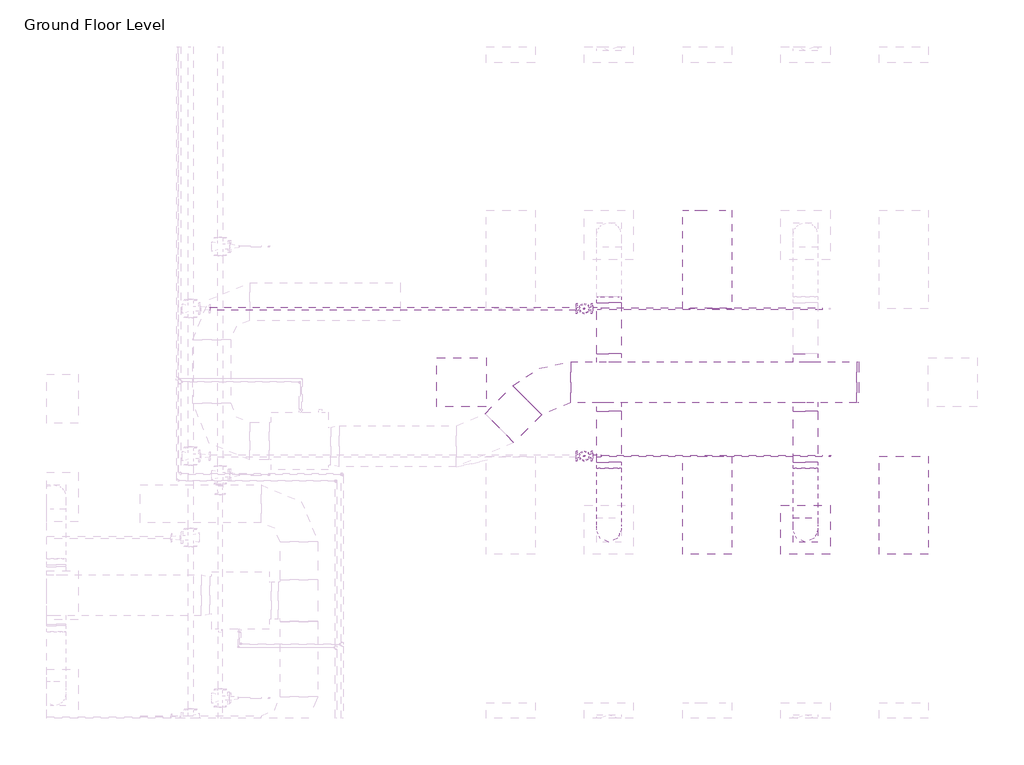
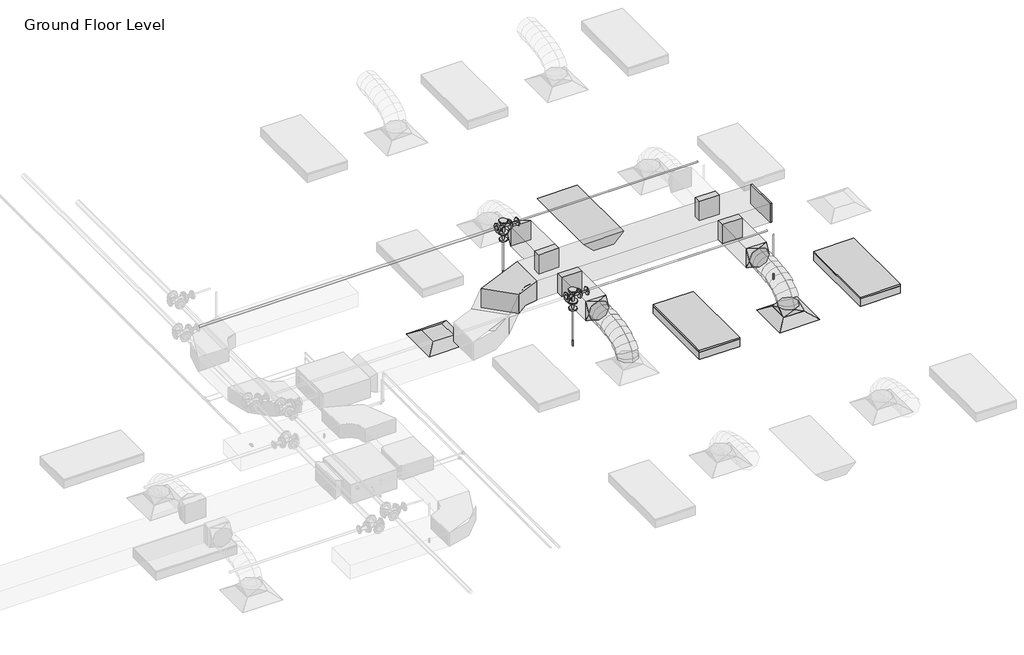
# One storey, part 64 of 74: 10 duct fittings, 7 duct segments, 6 pipe fittings, 6 pipe segments, 3 fire suppression terminals, 3 light fixtures, 2 air terminals.
"""IFC4 building model written with IfcOpenShell, lengths in millimetres."""

from ifc_helpers import new_model, si_unit, point, frame, frame_2d, origin, place, context, project, spatial, polyline, circle_curve, ellipse_curve, trimmed, segment, composite_curve, outline, extrude, transform, mapped, element, save
from ifc_brep_helpers import plane_surface, cylinder_surface, advanced_brep
from components import m_return_diffuser_600_x_600_face_300_x_300_connection_ff221211, m_rectangular_elbow_radius_1_5_w_acc56c25, m_rectangular_endcap_standard_72d4d00d, m_rectangular_takeoff_standard_cb0ccb98, m_rectangular_takeoff_standard_2be5eba1, m_rectangular_to_round_transition_angle_45_degree_641efff0, m_sprinkler_dry_pendent_hosted_15_mm_dry_pendent_9bda8e11, m_emergency_recessed_lighting_fixture_600x1200_277_5b10b25d, m_troffer_light_parabolic_rectangular1_0600x1200mm_4_lamp_86473d4a, m_reducer_flanged_cs_class_150_standard_ccf252ad, m_tee_round_base_flanged_cs_class_150_standard_7e5987a1

model = new_model("IFC4")

# Units and contexts
model_context = context("Model", 3, world=origin())
ifc_project = project(units=[si_unit("LENGTHUNIT", "METRE", prefix="MILLI")], contexts=[model_context])

# Site, building, storey
site = spatial("IfcSite", under=ifc_project)
building = spatial("IfcBuilding", under=site)
storey = spatial("IfcBuildingStorey", under=building, Name="Ground Floor Level", Elevation=900.0)

# Air terminals
placement = place(None, origin())
m_return_diffuser_600_x_600_face_300_x_300_connection_shape = m_return_diffuser_600_x_600_face_300_x_300_connection_ff221211(model_context)
element("IfcAirTerminal", 1, ObjectType="M_Return Diffuser : 600 x 600 Face 300 x 300 Connection", at=placement, inside=storey, context=model_context, shape_type="MappedRepresentation", body=[
    mapped(m_return_diffuser_600_x_600_face_300_x_300_connection_shape, transform((8942.7672395, 6735.2153534, 3650.0), x_axis=(1.0, 0.0, 0.0), y_axis=(0.0, 1.0, 0.0), z_axis=(0.0, 0.0, 1.0))),
])
element("IfcAirTerminal", 2, ObjectType="M_Supply Diffuser : 600 x 600 Face 300 x 300 Connection", at=placement, inside=storey, context=model_context, shape_type="MappedRepresentation", body=[
    mapped(m_return_diffuser_600_x_600_face_300_x_300_connection_shape, transform((13142.7672395, 4935.2153534, 3650.0), x_axis=(1.0, 0.0, 0.0), y_axis=(0.0, 1.0, 0.0), z_axis=(0.0, 0.0, 1.0))),
])

# Duct fittings
m_rectangular_elbow_radius_1_5_w_shape = m_rectangular_elbow_radius_1_5_w_acc56c25(model_context)
element("IfcDuctFitting", 3, ObjectType="M_Rectangular Elbow - Radius : 1.5 W", at=placement, inside=storey, context=model_context, shape_type="MappedRepresentation", body=[
    mapped(m_rectangular_elbow_radius_1_5_w_shape, transform((9966.7301365, 6735.2153534, 4100.0), x_axis=(-1.0, 0.0, 0.0), y_axis=(0.0, -0.9999999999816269, 6.061864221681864e-06), z_axis=(0.0, 6.061864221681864e-06, 0.9999999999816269))),
])
m_rectangular_endcap_standard_shape = m_rectangular_endcap_standard_72d4d00d(model_context)
element("IfcDuctFitting", 4, ObjectType="M_Rectangular Endcap : Standard", at=placement, inside=storey, context=model_context, shape_type="MappedRepresentation", body=[
    mapped(m_rectangular_endcap_standard_shape, transform((13766.7301365, 6735.2153534, 4100.0), x_axis=(1.0, 0.0, 0.0), y_axis=(0.0, 1.0, 0.0), z_axis=(0.0, 0.0, 1.0))),
])
m_rectangular_takeoff_standard_shape = m_rectangular_takeoff_standard_cb0ccb98(model_context)
element("IfcDuctFitting", 5, ObjectType="M_Rectangular Takeoff : Standard", at=placement, inside=storey, context=model_context, shape_type="MappedRepresentation", body=[
    mapped(m_rectangular_takeoff_standard_shape, transform((10742.7672395, 6985.2153534, 4100.0), x_axis=(0.0, 1.0, 0.0), y_axis=(1.0, 0.0, 0.0), z_axis=(0.0, 0.0, -1.0))),
])
element("IfcDuctFitting", 6, ObjectType="M_Rectangular Takeoff : Standard", at=placement, inside=storey, context=model_context, shape_type="MappedRepresentation", body=[
    mapped(m_rectangular_takeoff_standard_shape, transform((13142.7672395, 6985.2153534, 4100.0), x_axis=(0.0, 1.0, 0.0), y_axis=(1.0, 0.0, 0.0), z_axis=(0.0, 0.0, -1.0))),
])
m_rectangular_takeoff_standard_2_shape = m_rectangular_takeoff_standard_2be5eba1(model_context)
element("IfcDuctFitting", 7, ObjectType="M_Rectangular Takeoff : Standard", at=placement, inside=storey, context=model_context, shape_type="MappedRepresentation", body=[
    mapped(m_rectangular_takeoff_standard_2_shape, transform((10742.7672395, 6485.2153534, 4100.0), x_axis=(0.0, -1.0, 0.0), y_axis=(-1.0, 0.0, 0.0), z_axis=(0.0, 0.0, -1.0))),
])
element("IfcDuctFitting", 8, ObjectType="M_Rectangular Takeoff : Standard", at=placement, inside=storey, context=model_context, shape_type="MappedRepresentation", body=[
    mapped(m_rectangular_takeoff_standard_2_shape, transform((13142.7672395, 6485.2153534, 4100.0), x_axis=(0.0, -1.0, 0.0), y_axis=(-1.0, 0.0, 0.0), z_axis=(0.0, 0.0, -1.0))),
])
m_rectangular_to_round_transition_angle_45_degree_shape = m_rectangular_to_round_transition_angle_45_degree_641efff0(model_context)
element("IfcDuctFitting", 9, ObjectType="M_Rectangular to Round Transition - Angle : 45 Degree", at=placement, inside=storey, context=model_context, shape_type="MappedRepresentation", body=[
    mapped(m_rectangular_to_round_transition_angle_45_degree_shape, transform((10742.7672395, 5762.5512847, 4100.0), x_axis=(0.0, -1.0, 0.0), y_axis=(1.0, 0.0, 0.0), z_axis=(0.0, 0.0, 1.0))),
])
element("IfcDuctFitting", 10, ObjectType="M_Rectangular to Round Transition - Angle : 45 Degree", at=placement, inside=storey, context=model_context, shape_type="MappedRepresentation", body=[
    mapped(m_rectangular_to_round_transition_angle_45_degree_shape, transform((13142.7672395, 4935.2153534, 3751.6), x_axis=(0.0, 0.0, 1.0), y_axis=(-1.0, 0.0, 0.0), z_axis=(0.0, -1.0, 0.0))),
])
element("IfcDuctFitting", 11, ObjectType="M_Rectangular to Round Transition - Angle : 45 Degree", at=placement, inside=storey, context=model_context, shape_type="MappedRepresentation", body=[
    mapped(m_rectangular_to_round_transition_angle_45_degree_shape, transform((13142.7672395, 5762.5512847, 4100.0), x_axis=(0.0, -1.0, 0.0), y_axis=(1.0, 0.0, 0.0), z_axis=(0.0, 0.0, 1.0))),
])
element("IfcDuctFitting", 12, ObjectType="M_Rectangular to Round Transition - Angle : 45 Degree", at=placement, inside=storey, context=model_context, shape_type="MappedRepresentation", body=[
    mapped(m_rectangular_to_round_transition_angle_45_degree_shape, transform((10742.7672395, 7707.8794221, 4100.0), x_axis=(0.0, 1.0, 0.0), y_axis=(-1.0, 0.0, 0.0), z_axis=(0.0, 0.0, 1.0))),
])

# Duct segments
element("IfcDuctSegment", 13, ObjectType="Flex - Round", at=placement, inside=storey, context=model_context, shape_type="AdvancedBrep", body=[
    advanced_brep(
    [(10892.7672395, 4935.2153534, 3826.6), (10742.7672395, 4785.2153534, 3826.6), (10592.7672395, 4935.2153534, 3826.6), (10742.7672395, 5085.2153534, 3826.6), (10892.7672395, 4935.2153534, 3857.9377114), (10742.7672395, 4785.2153534, 3883.5809337), (10592.7672395, 4935.2153534, 3857.9377114), (10742.7672395, 5085.2153534, 3832.2944892), (10892.7672395, 4952.2312859, 3906.2505728), (10742.7672395, 4818.493307, 3978.0660967), (10592.7672395, 4952.2312859, 3906.2505728), (10742.7672395, 5085.9692649, 3834.435049), (10892.7672395, 4999.4151663, 3968.7113131), (10742.7672395, 4895.209267, 4079.6206026), (10592.7672395, 4999.4151663, 3968.7113131), (10742.7672395, 5103.6210655, 3857.8020236), (10892.7672395, 5070.9711184, 4016.0700639), (10742.7672395, 5002.0370628, 4150.3237489), (10592.7672395, 5070.9711184, 4016.0700639), (10742.7672395, 5139.9051741, 3881.8163788), (10892.7672395, 5161.1032664, 4050.4146682), (10742.7672395, 5117.5425033, 4194.3367758), (10592.7672395, 5161.1032664, 4050.4146682), (10742.7672395, 5204.6640296, 3906.4925606), (10892.7672395, 5264.0157343, 4073.8329691), (10742.7672395, 5237.4548103, 4221.6234841), (10592.7672395, 5264.0157343, 4073.8329691), (10742.7672395, 5290.5766583, 3926.0424542), (10892.7672395, 5373.912646, 4088.4128097), (10742.7672395, 5358.7617437, 4237.7170733), (10592.7672395, 5373.912646, 4088.4128097), (10742.7672395, 5389.0635483, 3939.1085462), (10892.7672395, 5484.9981256, 4096.242033), (10742.7672395, 5477.4927974, 4246.085151), (10592.7672395, 5484.9981256, 4096.242033), (10742.7672395, 5492.5034538, 3946.398915), (10892.7672395, 5591.4762972, 4099.4084821), (10742.7672395, 5588.7848041, 4249.394754), (10592.7672395, 5591.4762972, 4099.4084821), (10742.7672395, 5594.1677903, 3949.4222102), (10892.7672395, 5687.5512847, 4100.0), (10742.7672395, 5688.4747925, 3950.0028429), (10592.7672395, 5687.5512847, 4100.0), (10742.7672395, 5686.6277768, 4249.9971571)],
    [
        (0, 1, circle_curve(frame((10742.7672395, 4935.2153534, 3826.6), z_axis=(0.0, 0.0, -1.0), x_axis=(1.0, 0.0, 0.0)), 150.0)),
        (1, 2, circle_curve(frame((10742.7672395, 4935.2153534, 3826.6), z_axis=(0.0, 0.0, -1.0), x_axis=(1.0, 0.0, 0.0)), 150.0)),
        (2, 3, circle_curve(frame((10742.7672395, 4935.2153534, 3826.6), z_axis=(0.0, 0.0, -1.0), x_axis=(1.0, 0.0, 0.0)), 150.0)),
        (3, 0, circle_curve(frame((10742.7672395, 4935.2153534, 3826.6), z_axis=(0.0, 0.0, -1.0), x_axis=(1.0, 0.0, 0.0)), 150.0)),
        (0, 4),
        (4, 5, ellipse_curve(frame((10742.7672395, 4935.2153534, 3857.9377114), z_axis=(0.0, -0.16851014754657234, -0.9856999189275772), x_axis=(0.0, 0.9856999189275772, -0.1685101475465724)), 152.176131, 150.0)),
        (5, 1),
        (5, 6, ellipse_curve(frame((10742.7672395, 4935.2153534, 3857.9377114), z_axis=(0.0, -0.16851014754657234, -0.9856999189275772), x_axis=(0.0, 0.9856999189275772, -0.1685101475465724)), 152.176131, 150.0)),
        (6, 2),
        (6, 7, ellipse_curve(frame((10742.7672395, 4935.2153534, 3857.9377114), z_axis=(0.0, -0.16851014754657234, -0.9856999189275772), x_axis=(0.0, 0.9856999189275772, -0.1685101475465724)), 152.176131, 150.0)),
        (7, 3),
        (7, 4, ellipse_curve(frame((10742.7672395, 4935.2153534, 3857.9377114), z_axis=(0.0, -0.16851014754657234, -0.9856999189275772), x_axis=(0.0, 0.9856999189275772, -0.1685101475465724)), 152.176131, 150.0)),
        (4, 8),
        (8, 9, ellipse_curve(frame((10742.7672395, 4952.2312859, 3906.2505728), z_axis=(0.0, -0.4730922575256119, -0.8810128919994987), x_axis=(0.0, 0.8810128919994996, -0.47309225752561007)), 151.8002519, 150.0)),
        (9, 5),
        (9, 10, ellipse_curve(frame((10742.7672395, 4952.2312859, 3906.2505728), z_axis=(0.0, -0.4730922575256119, -0.8810128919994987), x_axis=(0.0, 0.8810128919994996, -0.47309225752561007)), 151.8002519, 150.0)),
        (10, 6),
        (10, 11, ellipse_curve(frame((10742.7672395, 4952.2312859, 3906.2505728), z_axis=(0.0, -0.4730922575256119, -0.8810128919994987), x_axis=(0.0, 0.8810128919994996, -0.47309225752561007)), 151.8002519, 150.0)),
        (11, 7),
        (11, 8, ellipse_curve(frame((10742.7672395, 4952.2312859, 3906.2505728), z_axis=(0.0, -0.4730922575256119, -0.8810128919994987), x_axis=(0.0, 0.8810128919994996, -0.47309225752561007)), 151.8002519, 150.0)),
        (8, 12),
        (12, 13, ellipse_curve(frame((10742.7672395, 4999.4151663, 3968.7113131), z_axis=(0.0, -0.7287877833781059, -0.6847396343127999), x_axis=(0.0, 0.6847396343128, -0.7287877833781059)), 152.1832446, 150.0)),
        (13, 9),
        (13, 14, ellipse_curve(frame((10742.7672395, 4999.4151663, 3968.7113131), z_axis=(0.0, -0.7287877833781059, -0.6847396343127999), x_axis=(0.0, 0.6847396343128, -0.7287877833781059)), 152.1832446, 150.0)),
        (14, 10),
        (14, 15, ellipse_curve(frame((10742.7672395, 4999.4151663, 3968.7113131), z_axis=(0.0, -0.7287877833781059, -0.6847396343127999), x_axis=(0.0, 0.6847396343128, -0.7287877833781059)), 152.1832446, 150.0)),
        (15, 11),
        (15, 12, ellipse_curve(frame((10742.7672395, 4999.4151663, 3968.7113131), z_axis=(0.0, -0.7287877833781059, -0.6847396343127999), x_axis=(0.0, 0.6847396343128, -0.7287877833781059)), 152.1832446, 150.0)),
        (12, 16),
        (16, 17, ellipse_curve(frame((10742.7672395, 5070.9711184, 4016.0700639), z_axis=(0.0, -0.8895859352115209, -0.4567678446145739), x_axis=(0.0, 0.4567678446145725, -0.8895859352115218)), 150.91705, 150.0)),
        (17, 13),
        (17, 18, ellipse_curve(frame((10742.7672395, 5070.9711184, 4016.0700639), z_axis=(0.0, -0.8895859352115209, -0.4567678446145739), x_axis=(0.0, 0.4567678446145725, -0.8895859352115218)), 150.91705, 150.0)),
        (18, 14),
        (18, 19, ellipse_curve(frame((10742.7672395, 5070.9711184, 4016.0700639), z_axis=(0.0, -0.8895859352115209, -0.4567678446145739), x_axis=(0.0, 0.4567678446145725, -0.8895859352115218)), 150.91705, 150.0)),
        (19, 15),
        (19, 16, ellipse_curve(frame((10742.7672395, 5070.9711184, 4016.0700639), z_axis=(0.0, -0.8895859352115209, -0.4567678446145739), x_axis=(0.0, 0.4567678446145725, -0.8895859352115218)), 150.91705, 150.0)),
        (16, 20),
        (20, 21, ellipse_curve(frame((10742.7672395, 5161.1032664, 4050.4146682), z_axis=(0.0, -0.9571203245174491, -0.28969067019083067), x_axis=(0.0, 0.28969067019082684, -0.9571203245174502)), 150.369921, 150.0)),
        (21, 17),
        (21, 22, ellipse_curve(frame((10742.7672395, 5161.1032664, 4050.4146682), z_axis=(0.0, -0.9571203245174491, -0.28969067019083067), x_axis=(0.0, 0.28969067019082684, -0.9571203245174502)), 150.369921, 150.0)),
        (22, 18),
        (22, 23, ellipse_curve(frame((10742.7672395, 5161.1032664, 4050.4146682), z_axis=(0.0, -0.9571203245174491, -0.28969067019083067), x_axis=(0.0, 0.28969067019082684, -0.9571203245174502)), 150.369921, 150.0)),
        (23, 19),
        (23, 20, ellipse_curve(frame((10742.7672395, 5161.1032664, 4050.4146682), z_axis=(0.0, -0.9571203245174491, -0.28969067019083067), x_axis=(0.0, 0.28969067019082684, -0.9571203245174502)), 150.369921, 150.0)),
        (20, 24),
        (24, 25, ellipse_curve(frame((10742.7672395, 5264.0157343, 4073.8329691), z_axis=(0.0, -0.9842313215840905, -0.17688613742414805), x_axis=(0.0, 0.17688613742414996, -0.9842313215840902)), 150.1583131, 150.0)),
        (25, 21),
        (25, 26, ellipse_curve(frame((10742.7672395, 5264.0157343, 4073.8329691), z_axis=(0.0, -0.9842313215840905, -0.17688613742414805), x_axis=(0.0, 0.17688613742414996, -0.9842313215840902)), 150.1583131, 150.0)),
        (26, 22),
        (26, 27, ellipse_curve(frame((10742.7672395, 5264.0157343, 4073.8329691), z_axis=(0.0, -0.9842313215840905, -0.17688613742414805), x_axis=(0.0, 0.17688613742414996, -0.9842313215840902)), 150.1583131, 150.0)),
        (27, 23),
        (27, 24, ellipse_curve(frame((10742.7672395, 5264.0157343, 4073.8329691), z_axis=(0.0, -0.9842313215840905, -0.17688613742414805), x_axis=(0.0, 0.17688613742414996, -0.9842313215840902)), 150.1583131, 150.0)),
        (24, 28),
        (28, 29, ellipse_curve(frame((10742.7672395, 5373.912646, 4088.4128097), z_axis=(0.0, -0.9948906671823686, -0.10095821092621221), x_axis=(0.0, 0.10095821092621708, -0.9948906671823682)), 150.0710264, 150.0)),
        (29, 25),
        (29, 30, ellipse_curve(frame((10742.7672395, 5373.912646, 4088.4128097), z_axis=(0.0, -0.9948906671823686, -0.10095821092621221), x_axis=(0.0, 0.10095821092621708, -0.9948906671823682)), 150.0710264, 150.0)),
        (30, 26),
        (30, 31, ellipse_curve(frame((10742.7672395, 5373.912646, 4088.4128097), z_axis=(0.0, -0.9948906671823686, -0.10095821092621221), x_axis=(0.0, 0.10095821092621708, -0.9948906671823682)), 150.0710264, 150.0)),
        (31, 27),
        (31, 28, ellipse_curve(frame((10742.7672395, 5373.912646, 4088.4128097), z_axis=(0.0, -0.9948906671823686, -0.10095821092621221), x_axis=(0.0, 0.10095821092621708, -0.9948906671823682)), 150.0710264, 150.0)),
        (28, 32),
        (32, 33, ellipse_curve(frame((10742.7672395, 5484.9981256, 4096.242033), z_axis=(0.0, -0.9987479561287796, -0.05002519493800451), x_axis=(0.0, 0.050025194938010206, -0.9987479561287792)), 150.0309634, 150.0)),
        (33, 29),
        (33, 34, ellipse_curve(frame((10742.7672395, 5484.9981256, 4096.242033), z_axis=(0.0, -0.9987479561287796, -0.05002519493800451), x_axis=(0.0, 0.050025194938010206, -0.9987479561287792)), 150.0309634, 150.0)),
        (34, 30),
        (34, 35, ellipse_curve(frame((10742.7672395, 5484.9981256, 4096.242033), z_axis=(0.0, -0.9987479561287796, -0.05002519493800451), x_axis=(0.0, 0.050025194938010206, -0.9987479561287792)), 150.0309634, 150.0)),
        (35, 31),
        (35, 32, ellipse_curve(frame((10742.7672395, 5484.9981256, 4096.242033), z_axis=(0.0, -0.9987479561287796, -0.05002519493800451), x_axis=(0.0, 0.050025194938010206, -0.9987479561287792)), 150.0309634, 150.0)),
        (32, 36),
        (36, 37, ellipse_curve(frame((10742.7672395, 5591.4762972, 4099.4084821), z_axis=(0.0, -0.9998390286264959, -0.017942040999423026), x_axis=(0.0, 0.01794204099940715, -0.9998390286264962)), 150.0104193, 150.0)),
        (37, 33),
        (37, 38, ellipse_curve(frame((10742.7672395, 5591.4762972, 4099.4084821), z_axis=(0.0, -0.9998390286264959, -0.017942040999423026), x_axis=(0.0, 0.01794204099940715, -0.9998390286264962)), 150.0104193, 150.0)),
        (38, 34),
        (38, 39, ellipse_curve(frame((10742.7672395, 5591.4762972, 4099.4084821), z_axis=(0.0, -0.9998390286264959, -0.017942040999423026), x_axis=(0.0, 0.01794204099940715, -0.9998390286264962)), 150.0104193, 150.0)),
        (39, 35),
        (39, 36, ellipse_curve(frame((10742.7672395, 5591.4762972, 4099.4084821), z_axis=(0.0, -0.9998390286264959, -0.017942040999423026), x_axis=(0.0, 0.01794204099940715, -0.9998390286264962)), 150.0104193, 150.0)),
        (40, 41, circle_curve(frame((10742.7672395, 5687.5512847, 4100.0), z_axis=(0.0, 0.9999810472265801, 0.006156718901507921), x_axis=(1.0, 0.0, 0.0)), 150.0)),
        (41, 42, circle_curve(frame((10742.7672395, 5687.5512847, 4100.0), z_axis=(0.0, 0.9999810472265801, 0.006156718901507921), x_axis=(1.0, 0.0, 0.0)), 150.0)),
        (42, 43, circle_curve(frame((10742.7672395, 5687.5512847, 4100.0), z_axis=(0.0, 0.9999810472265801, 0.006156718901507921), x_axis=(1.0, 0.0, 0.0)), 150.0)),
        (43, 40, circle_curve(frame((10742.7672395, 5687.5512847, 4100.0), z_axis=(0.0, 0.9999810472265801, 0.006156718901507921), x_axis=(1.0, 0.0, 0.0)), 150.0)),
        (36, 40),
        (43, 37),
        (42, 38),
        (41, 39),
    ],
    [
        plane_surface(frame((10742.7672395, 4785.2153534, 3826.6), z_axis=(0.0, 0.0, -1.0), x_axis=(1.0, 0.0, 0.0))),
        cylinder_surface(frame((10742.7672395, 4935.2153534, 3826.6), z_axis=(0.0, 0.0, -1.0), x_axis=(1.0, 0.0, 0.0)), 150.0),
        cylinder_surface(frame((10742.7672395, 4935.2153534, 3857.9377114), z_axis=(0.0, -0.3322008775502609, -0.9432086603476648), x_axis=(1.0, 0.0, 0.0)), 150.0),
        cylinder_surface(frame((10742.7672395, 4952.2312859, 3906.2505728), z_axis=(0.0, -0.6027625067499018, -0.7979206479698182), x_axis=(1.0, 0.0, 0.0)), 150.0),
        cylinder_surface(frame((10742.7672395, 4999.4151663, 3968.7113131), z_axis=(0.0, -0.8339024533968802, -0.5519118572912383), x_axis=(1.0, 0.0, 0.0)), 150.0),
        cylinder_surface(frame((10742.7672395, 5070.9711184, 4016.0700639), z_axis=(0.0, -0.934458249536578, -0.35607271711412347), x_axis=(1.0, 0.0, 0.0)), 150.0),
        cylinder_surface(frame((10742.7672395, 5161.1032664, 4050.4146682), z_axis=(0.0, -0.9750732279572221, -0.22188330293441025), x_axis=(1.0, 0.0, 0.0)), 150.0),
        cylinder_surface(frame((10742.7672395, 5264.0157343, 4073.8329691), z_axis=(0.0, -0.9913140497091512, -0.1315159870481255), x_axis=(1.0, 0.0, 0.0)), 150.0),
        cylinder_surface(frame((10742.7672395, 5373.912646, 4088.4128097), z_axis=(0.0, -0.9975255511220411, -0.07030487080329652), x_axis=(1.0, 0.0, 0.0)), 150.0),
        cylinder_surface(frame((10742.7672395, 5484.9981256, 4096.242033), z_axis=(0.0, -0.9995581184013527, -0.02972487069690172), x_axis=(1.0, 0.0, 0.0)), 150.0),
        plane_surface(frame((10742.7672395, 5686.6277768, 4249.9971571), z_axis=(0.0, 0.9999810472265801, 0.0061567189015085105), x_axis=(1.0, 0.0, 0.0))),
        cylinder_surface(frame((10742.7672395, 5591.4762972, 4099.4084821), z_axis=(0.0, -0.9999810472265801, -0.006156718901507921), x_axis=(1.0, 0.0, 0.0)), 150.0),
    ],
    [
        (0, [[1, 2, 3, 4]]),
        (1, [[-1, 5, 6, 7]]),
        (1, [[-2, -7, 8, 9]]),
        (1, [[-3, -9, 10, 11]]),
        (1, [[-4, -11, 12, -5]]),
        (2, [[-6, 13, 14, 15]]),
        (2, [[-8, -15, 16, 17]]),
        (2, [[-10, -17, 18, 19]]),
        (2, [[-12, -19, 20, -13]]),
        (3, [[-14, 21, 22, 23]]),
        (3, [[-16, -23, 24, 25]]),
        (3, [[-18, -25, 26, 27]]),
        (3, [[-20, -27, 28, -21]]),
        (4, [[-22, 29, 30, 31]]),
        (4, [[-24, -31, 32, 33]]),
        (4, [[-26, -33, 34, 35]]),
        (4, [[-28, -35, 36, -29]]),
        (5, [[-30, 37, 38, 39]]),
        (5, [[-32, -39, 40, 41]]),
        (5, [[-34, -41, 42, 43]]),
        (5, [[-36, -43, 44, -37]]),
        (6, [[-38, 45, 46, 47]]),
        (6, [[-40, -47, 48, 49]]),
        (6, [[-42, -49, 50, 51]]),
        (6, [[-44, -51, 52, -45]]),
        (7, [[-46, 53, 54, 55]]),
        (7, [[-48, -55, 56, 57]]),
        (7, [[-50, -57, 58, 59]]),
        (7, [[-52, -59, 60, -53]]),
        (8, [[-54, 61, 62, 63]]),
        (8, [[-56, -63, 64, 65]]),
        (8, [[-58, -65, 66, 67]]),
        (8, [[-60, -67, 68, -61]]),
        (9, [[-62, 69, 70, 71]]),
        (9, [[-64, -71, 72, 73]]),
        (9, [[-66, -73, 74, 75]]),
        (9, [[-68, -75, 76, -69]]),
        (10, [[77, 78, 79, 80]]),
        (11, [[-70, 81, -80, 82]]),
        (11, [[-72, -82, -79, 83]]),
        (11, [[-74, -83, -78, 84]]),
        (11, [[-76, -84, -77, -81]]),
    ],
),
])
element("IfcDuctSegment", 14, ObjectType="Flex - Round", at=placement, inside=storey, context=model_context, shape_type="AdvancedBrep", body=[
    advanced_brep(
    [(13292.7672395, 4935.2153534, 3826.6), (13142.7672395, 4785.2153534, 3826.6), (12992.7672395, 4935.2153534, 3826.6), (13142.7672395, 5085.2153534, 3826.6), (13292.7672395, 4935.2153534, 3857.9377114), (13142.7672395, 4785.2153534, 3883.5809337), (12992.7672395, 4935.2153534, 3857.9377114), (13142.7672395, 5085.2153534, 3832.2944892), (13292.7672395, 4952.2312859, 3906.2505728), (13142.7672395, 4818.493307, 3978.0660967), (12992.7672395, 4952.2312859, 3906.2505728), (13142.7672395, 5085.9692649, 3834.435049), (13292.7672395, 4999.4151663, 3968.7113131), (13142.7672395, 4895.209267, 4079.6206026), (12992.7672395, 4999.4151663, 3968.7113131), (13142.7672395, 5103.6210655, 3857.8020236), (13292.7672395, 5070.9711184, 4016.0700639), (13142.7672395, 5002.0370628, 4150.3237489), (12992.7672395, 5070.9711184, 4016.0700639), (13142.7672395, 5139.9051741, 3881.8163788), (13292.7672395, 5161.1032664, 4050.4146682), (13142.7672395, 5117.5425033, 4194.3367758), (12992.7672395, 5161.1032664, 4050.4146682), (13142.7672395, 5204.6640296, 3906.4925606), (13292.7672395, 5264.0157343, 4073.8329691), (13142.7672395, 5237.4548103, 4221.6234841), (12992.7672395, 5264.0157343, 4073.8329691), (13142.7672395, 5290.5766583, 3926.0424542), (13292.7672395, 5373.912646, 4088.4128097), (13142.7672395, 5358.7617437, 4237.7170733), (12992.7672395, 5373.912646, 4088.4128097), (13142.7672395, 5389.0635483, 3939.1085462), (13292.7672395, 5484.9981256, 4096.242033), (13142.7672395, 5477.4927974, 4246.085151), (12992.7672395, 5484.9981256, 4096.242033), (13142.7672395, 5492.5034538, 3946.398915), (13292.7672395, 5591.4762972, 4099.4084821), (13142.7672395, 5588.7848041, 4249.394754), (12992.7672395, 5591.4762972, 4099.4084821), (13142.7672395, 5594.1677903, 3949.4222102), (13292.7672395, 5687.5512847, 4100.0), (13142.7672395, 5688.4747925, 3950.0028429), (12992.7672395, 5687.5512847, 4100.0), (13142.7672395, 5686.6277768, 4249.9971571)],
    [
        (0, 1, circle_curve(frame((13142.7672395, 4935.2153534, 3826.6), z_axis=(0.0, 0.0, -1.0), x_axis=(1.0, 0.0, 0.0)), 150.0)),
        (1, 2, circle_curve(frame((13142.7672395, 4935.2153534, 3826.6), z_axis=(0.0, 0.0, -1.0), x_axis=(1.0, 0.0, 0.0)), 150.0)),
        (2, 3, circle_curve(frame((13142.7672395, 4935.2153534, 3826.6), z_axis=(0.0, 0.0, -1.0), x_axis=(1.0, 0.0, 0.0)), 150.0)),
        (3, 0, circle_curve(frame((13142.7672395, 4935.2153534, 3826.6), z_axis=(0.0, 0.0, -1.0), x_axis=(1.0, 0.0, 0.0)), 150.0)),
        (0, 4),
        (4, 5, ellipse_curve(frame((13142.7672395, 4935.2153534, 3857.9377114), z_axis=(0.0, -0.16851014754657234, -0.9856999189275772), x_axis=(0.0, 0.9856999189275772, -0.1685101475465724)), 152.176131, 150.0)),
        (5, 1),
        (5, 6, ellipse_curve(frame((13142.7672395, 4935.2153534, 3857.9377114), z_axis=(0.0, -0.16851014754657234, -0.9856999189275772), x_axis=(0.0, 0.9856999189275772, -0.1685101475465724)), 152.176131, 150.0)),
        (6, 2),
        (6, 7, ellipse_curve(frame((13142.7672395, 4935.2153534, 3857.9377114), z_axis=(0.0, -0.16851014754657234, -0.9856999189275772), x_axis=(0.0, 0.9856999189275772, -0.1685101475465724)), 152.176131, 150.0)),
        (7, 3),
        (7, 4, ellipse_curve(frame((13142.7672395, 4935.2153534, 3857.9377114), z_axis=(0.0, -0.16851014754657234, -0.9856999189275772), x_axis=(0.0, 0.9856999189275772, -0.1685101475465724)), 152.176131, 150.0)),
        (4, 8),
        (8, 9, ellipse_curve(frame((13142.7672395, 4952.2312859, 3906.2505728), z_axis=(0.0, -0.4730922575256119, -0.8810128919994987), x_axis=(0.0, 0.8810128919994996, -0.47309225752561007)), 151.8002519, 150.0)),
        (9, 5),
        (9, 10, ellipse_curve(frame((13142.7672395, 4952.2312859, 3906.2505728), z_axis=(0.0, -0.4730922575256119, -0.8810128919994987), x_axis=(0.0, 0.8810128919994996, -0.47309225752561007)), 151.8002519, 150.0)),
        (10, 6),
        (10, 11, ellipse_curve(frame((13142.7672395, 4952.2312859, 3906.2505728), z_axis=(0.0, -0.4730922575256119, -0.8810128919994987), x_axis=(0.0, 0.8810128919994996, -0.47309225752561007)), 151.8002519, 150.0)),
        (11, 7),
        (11, 8, ellipse_curve(frame((13142.7672395, 4952.2312859, 3906.2505728), z_axis=(0.0, -0.4730922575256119, -0.8810128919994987), x_axis=(0.0, 0.8810128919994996, -0.47309225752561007)), 151.8002519, 150.0)),
        (8, 12),
        (12, 13, ellipse_curve(frame((13142.7672395, 4999.4151663, 3968.7113131), z_axis=(0.0, -0.7287877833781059, -0.6847396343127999), x_axis=(0.0, 0.6847396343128, -0.7287877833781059)), 152.1832446, 150.0)),
        (13, 9),
        (13, 14, ellipse_curve(frame((13142.7672395, 4999.4151663, 3968.7113131), z_axis=(0.0, -0.7287877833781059, -0.6847396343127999), x_axis=(0.0, 0.6847396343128, -0.7287877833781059)), 152.1832446, 150.0)),
        (14, 10),
        (14, 15, ellipse_curve(frame((13142.7672395, 4999.4151663, 3968.7113131), z_axis=(0.0, -0.7287877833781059, -0.6847396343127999), x_axis=(0.0, 0.6847396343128, -0.7287877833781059)), 152.1832446, 150.0)),
        (15, 11),
        (15, 12, ellipse_curve(frame((13142.7672395, 4999.4151663, 3968.7113131), z_axis=(0.0, -0.7287877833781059, -0.6847396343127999), x_axis=(0.0, 0.6847396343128, -0.7287877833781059)), 152.1832446, 150.0)),
        (12, 16),
        (16, 17, ellipse_curve(frame((13142.7672395, 5070.9711184, 4016.0700639), z_axis=(0.0, -0.8895859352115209, -0.4567678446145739), x_axis=(0.0, 0.4567678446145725, -0.8895859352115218)), 150.91705, 150.0)),
        (17, 13),
        (17, 18, ellipse_curve(frame((13142.7672395, 5070.9711184, 4016.0700639), z_axis=(0.0, -0.8895859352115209, -0.4567678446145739), x_axis=(0.0, 0.4567678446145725, -0.8895859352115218)), 150.91705, 150.0)),
        (18, 14),
        (18, 19, ellipse_curve(frame((13142.7672395, 5070.9711184, 4016.0700639), z_axis=(0.0, -0.8895859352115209, -0.4567678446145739), x_axis=(0.0, 0.4567678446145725, -0.8895859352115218)), 150.91705, 150.0)),
        (19, 15),
        (19, 16, ellipse_curve(frame((13142.7672395, 5070.9711184, 4016.0700639), z_axis=(0.0, -0.8895859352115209, -0.4567678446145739), x_axis=(0.0, 0.4567678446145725, -0.8895859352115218)), 150.91705, 150.0)),
        (16, 20),
        (20, 21, ellipse_curve(frame((13142.7672395, 5161.1032664, 4050.4146682), z_axis=(0.0, -0.9571203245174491, -0.28969067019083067), x_axis=(0.0, 0.28969067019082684, -0.9571203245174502)), 150.369921, 150.0)),
        (21, 17),
        (21, 22, ellipse_curve(frame((13142.7672395, 5161.1032664, 4050.4146682), z_axis=(0.0, -0.9571203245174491, -0.28969067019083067), x_axis=(0.0, 0.28969067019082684, -0.9571203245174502)), 150.369921, 150.0)),
        (22, 18),
        (22, 23, ellipse_curve(frame((13142.7672395, 5161.1032664, 4050.4146682), z_axis=(0.0, -0.9571203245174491, -0.28969067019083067), x_axis=(0.0, 0.28969067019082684, -0.9571203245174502)), 150.369921, 150.0)),
        (23, 19),
        (23, 20, ellipse_curve(frame((13142.7672395, 5161.1032664, 4050.4146682), z_axis=(0.0, -0.9571203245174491, -0.28969067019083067), x_axis=(0.0, 0.28969067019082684, -0.9571203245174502)), 150.369921, 150.0)),
        (20, 24),
        (24, 25, ellipse_curve(frame((13142.7672395, 5264.0157343, 4073.8329691), z_axis=(0.0, -0.9842313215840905, -0.17688613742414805), x_axis=(0.0, 0.17688613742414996, -0.9842313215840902)), 150.1583131, 150.0)),
        (25, 21),
        (25, 26, ellipse_curve(frame((13142.7672395, 5264.0157343, 4073.8329691), z_axis=(0.0, -0.9842313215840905, -0.17688613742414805), x_axis=(0.0, 0.17688613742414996, -0.9842313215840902)), 150.1583131, 150.0)),
        (26, 22),
        (26, 27, ellipse_curve(frame((13142.7672395, 5264.0157343, 4073.8329691), z_axis=(0.0, -0.9842313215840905, -0.17688613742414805), x_axis=(0.0, 0.17688613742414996, -0.9842313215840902)), 150.1583131, 150.0)),
        (27, 23),
        (27, 24, ellipse_curve(frame((13142.7672395, 5264.0157343, 4073.8329691), z_axis=(0.0, -0.9842313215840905, -0.17688613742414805), x_axis=(0.0, 0.17688613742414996, -0.9842313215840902)), 150.1583131, 150.0)),
        (24, 28),
        (28, 29, ellipse_curve(frame((13142.7672395, 5373.912646, 4088.4128097), z_axis=(0.0, -0.9948906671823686, -0.10095821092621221), x_axis=(0.0, 0.10095821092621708, -0.9948906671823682)), 150.0710264, 150.0)),
        (29, 25),
        (29, 30, ellipse_curve(frame((13142.7672395, 5373.912646, 4088.4128097), z_axis=(0.0, -0.9948906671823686, -0.10095821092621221), x_axis=(0.0, 0.10095821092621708, -0.9948906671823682)), 150.0710264, 150.0)),
        (30, 26),
        (30, 31, ellipse_curve(frame((13142.7672395, 5373.912646, 4088.4128097), z_axis=(0.0, -0.9948906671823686, -0.10095821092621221), x_axis=(0.0, 0.10095821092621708, -0.9948906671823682)), 150.0710264, 150.0)),
        (31, 27),
        (31, 28, ellipse_curve(frame((13142.7672395, 5373.912646, 4088.4128097), z_axis=(0.0, -0.9948906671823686, -0.10095821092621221), x_axis=(0.0, 0.10095821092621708, -0.9948906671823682)), 150.0710264, 150.0)),
        (28, 32),
        (32, 33, ellipse_curve(frame((13142.7672395, 5484.9981256, 4096.242033), z_axis=(0.0, -0.9987479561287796, -0.05002519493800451), x_axis=(0.0, 0.050025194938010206, -0.9987479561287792)), 150.0309634, 150.0)),
        (33, 29),
        (33, 34, ellipse_curve(frame((13142.7672395, 5484.9981256, 4096.242033), z_axis=(0.0, -0.9987479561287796, -0.05002519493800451), x_axis=(0.0, 0.050025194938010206, -0.9987479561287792)), 150.0309634, 150.0)),
        (34, 30),
        (34, 35, ellipse_curve(frame((13142.7672395, 5484.9981256, 4096.242033), z_axis=(0.0, -0.9987479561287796, -0.05002519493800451), x_axis=(0.0, 0.050025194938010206, -0.9987479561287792)), 150.0309634, 150.0)),
        (35, 31),
        (35, 32, ellipse_curve(frame((13142.7672395, 5484.9981256, 4096.242033), z_axis=(0.0, -0.9987479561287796, -0.05002519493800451), x_axis=(0.0, 0.050025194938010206, -0.9987479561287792)), 150.0309634, 150.0)),
        (32, 36),
        (36, 37, ellipse_curve(frame((13142.7672395, 5591.4762972, 4099.4084821), z_axis=(0.0, -0.9998390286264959, -0.017942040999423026), x_axis=(0.0, 0.01794204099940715, -0.9998390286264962)), 150.0104193, 150.0)),
        (37, 33),
        (37, 38, ellipse_curve(frame((13142.7672395, 5591.4762972, 4099.4084821), z_axis=(0.0, -0.9998390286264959, -0.017942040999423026), x_axis=(0.0, 0.01794204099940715, -0.9998390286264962)), 150.0104193, 150.0)),
        (38, 34),
        (38, 39, ellipse_curve(frame((13142.7672395, 5591.4762972, 4099.4084821), z_axis=(0.0, -0.9998390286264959, -0.017942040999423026), x_axis=(0.0, 0.01794204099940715, -0.9998390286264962)), 150.0104193, 150.0)),
        (39, 35),
        (39, 36, ellipse_curve(frame((13142.7672395, 5591.4762972, 4099.4084821), z_axis=(0.0, -0.9998390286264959, -0.017942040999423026), x_axis=(0.0, 0.01794204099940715, -0.9998390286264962)), 150.0104193, 150.0)),
        (40, 41, circle_curve(frame((13142.7672395, 5687.5512847, 4100.0), z_axis=(0.0, 0.9999810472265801, 0.006156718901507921), x_axis=(1.0, 0.0, 0.0)), 150.0)),
        (41, 42, circle_curve(frame((13142.7672395, 5687.5512847, 4100.0), z_axis=(0.0, 0.9999810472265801, 0.006156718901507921), x_axis=(1.0, 0.0, 0.0)), 150.0)),
        (42, 43, circle_curve(frame((13142.7672395, 5687.5512847, 4100.0), z_axis=(0.0, 0.9999810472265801, 0.006156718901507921), x_axis=(1.0, 0.0, 0.0)), 150.0)),
        (43, 40, circle_curve(frame((13142.7672395, 5687.5512847, 4100.0), z_axis=(0.0, 0.9999810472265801, 0.006156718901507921), x_axis=(1.0, 0.0, 0.0)), 150.0)),
        (36, 40),
        (43, 37),
        (42, 38),
        (41, 39),
    ],
    [
        plane_surface(frame((13142.7672395, 4785.2153534, 3826.6), z_axis=(0.0, 0.0, -1.0), x_axis=(1.0, 0.0, 0.0))),
        cylinder_surface(frame((13142.7672395, 4935.2153534, 3826.6), z_axis=(0.0, 0.0, -1.0), x_axis=(1.0, 0.0, 0.0)), 150.0),
        cylinder_surface(frame((13142.7672395, 4935.2153534, 3857.9377114), z_axis=(0.0, -0.3322008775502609, -0.9432086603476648), x_axis=(1.0, 0.0, 0.0)), 150.0),
        cylinder_surface(frame((13142.7672395, 4952.2312859, 3906.2505728), z_axis=(0.0, -0.6027625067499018, -0.7979206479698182), x_axis=(1.0, 0.0, 0.0)), 150.0),
        cylinder_surface(frame((13142.7672395, 4999.4151663, 3968.7113131), z_axis=(0.0, -0.8339024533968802, -0.5519118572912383), x_axis=(1.0, 0.0, 0.0)), 150.0),
        cylinder_surface(frame((13142.7672395, 5070.9711184, 4016.0700639), z_axis=(0.0, -0.934458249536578, -0.35607271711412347), x_axis=(1.0, 0.0, 0.0)), 150.0),
        cylinder_surface(frame((13142.7672395, 5161.1032664, 4050.4146682), z_axis=(0.0, -0.9750732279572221, -0.22188330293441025), x_axis=(1.0, 0.0, 0.0)), 150.0),
        cylinder_surface(frame((13142.7672395, 5264.0157343, 4073.8329691), z_axis=(0.0, -0.9913140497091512, -0.1315159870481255), x_axis=(1.0, 0.0, 0.0)), 150.0),
        cylinder_surface(frame((13142.7672395, 5373.912646, 4088.4128097), z_axis=(0.0, -0.9975255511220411, -0.07030487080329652), x_axis=(1.0, 0.0, 0.0)), 150.0),
        cylinder_surface(frame((13142.7672395, 5484.9981256, 4096.242033), z_axis=(0.0, -0.9995581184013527, -0.02972487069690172), x_axis=(1.0, 0.0, 0.0)), 150.0),
        plane_surface(frame((13142.7672395, 5686.6277768, 4249.9971571), z_axis=(0.0, 0.9999810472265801, 0.0061567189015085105), x_axis=(1.0, 0.0, 0.0))),
        cylinder_surface(frame((13142.7672395, 5591.4762972, 4099.4084821), z_axis=(0.0, -0.9999810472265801, -0.006156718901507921), x_axis=(1.0, 0.0, 0.0)), 150.0),
    ],
    [
        (0, [[1, 2, 3, 4]]),
        (1, [[-1, 5, 6, 7]]),
        (1, [[-2, -7, 8, 9]]),
        (1, [[-3, -9, 10, 11]]),
        (1, [[-4, -11, 12, -5]]),
        (2, [[-6, 13, 14, 15]]),
        (2, [[-8, -15, 16, 17]]),
        (2, [[-10, -17, 18, 19]]),
        (2, [[-12, -19, 20, -13]]),
        (3, [[-14, 21, 22, 23]]),
        (3, [[-16, -23, 24, 25]]),
        (3, [[-18, -25, 26, 27]]),
        (3, [[-20, -27, 28, -21]]),
        (4, [[-22, 29, 30, 31]]),
        (4, [[-24, -31, 32, 33]]),
        (4, [[-26, -33, 34, 35]]),
        (4, [[-28, -35, 36, -29]]),
        (5, [[-30, 37, 38, 39]]),
        (5, [[-32, -39, 40, 41]]),
        (5, [[-34, -41, 42, 43]]),
        (5, [[-36, -43, 44, -37]]),
        (6, [[-38, 45, 46, 47]]),
        (6, [[-40, -47, 48, 49]]),
        (6, [[-42, -49, 50, 51]]),
        (6, [[-44, -51, 52, -45]]),
        (7, [[-46, 53, 54, 55]]),
        (7, [[-48, -55, 56, 57]]),
        (7, [[-50, -57, 58, 59]]),
        (7, [[-52, -59, 60, -53]]),
        (8, [[-54, 61, 62, 63]]),
        (8, [[-56, -63, 64, 65]]),
        (8, [[-58, -65, 66, 67]]),
        (8, [[-60, -67, 68, -61]]),
        (9, [[-62, 69, 70, 71]]),
        (9, [[-64, -71, 72, 73]]),
        (9, [[-66, -73, 74, 75]]),
        (9, [[-68, -75, 76, -69]]),
        (10, [[77, 78, 79, 80]]),
        (11, [[-70, 81, -80, 82]]),
        (11, [[-72, -82, -79, 83]]),
        (11, [[-74, -83, -78, 84]]),
        (11, [[-76, -84, -77, -81]]),
    ],
),
])
element("IfcDuctSegment", 15, ObjectType="Radius Elbows / Taps", at=placement, inside=storey, context=model_context, shape_type="SweptSolid", body=[
    extrude(outline(polyline([(9584.1393452, 5999.0711715), (9230.5859546, 6352.6245621), (9570.2835271, 6692.3221346), (9923.8369177, 6338.768744), (9584.1393452, 5999.0711715)])), frame((0.0, 0.0, 3950.0033908), z_axis=(0.0, 0.0, 1.0), x_axis=(1.0, 0.0, 0.0)), (0.0, 0.0, 1.0), 300.0),
])
element("IfcDuctSegment", 16, ObjectType="Radius Elbows / Taps", at=placement, inside=storey, context=model_context, shape_type="SweptSolid", body=[
    extrude(outline(polyline([(10277.3903083, 6485.2153534), (10277.3903083, 6985.2153534), (13766.7301365, 6985.2153534), (13766.7301365, 6485.2153534), (10277.3903083, 6485.2153534)])), frame((0.0, 0.0, 3950.0), z_axis=(0.0, 0.0, 1.0), x_axis=(1.0, 0.0, 0.0)), (0.0, 0.0, 1.0), 300.0),
])
element("IfcDuctSegment", 17, ObjectType="Radius Elbows / Taps", at=placement, inside=storey, context=model_context, shape_type="SweptSolid", body=[
    extrude(outline(polyline([(10892.7672395, 7086.8153534), (10592.7672395, 7086.8153534), (10592.7672395, 7707.8794221), (10892.7672395, 7707.8794221), (10892.7672395, 7086.8153534)])), frame((0.0, 0.0, 3950.0), z_axis=(0.0, 0.0, 1.0), x_axis=(1.0, 0.0, 0.0)), (0.0, 0.0, 1.0), 300.0),
])
element("IfcDuctSegment", 18, ObjectType="Radius Elbows / Taps", at=placement, inside=storey, context=model_context, shape_type="SweptSolid", body=[
    extrude(outline(polyline([(10592.7672395, 6383.6153534), (10892.7672395, 6383.6153534), (10892.7672395, 5762.5512847), (10592.7672395, 5762.5512847), (10592.7672395, 6383.6153534)])), frame((0.0, 0.0, 3950.0), z_axis=(0.0, 0.0, 1.0), x_axis=(1.0, 0.0, 0.0)), (0.0, 0.0, 1.0), 300.0),
])
element("IfcDuctSegment", 19, ObjectType="Radius Elbows / Taps", at=placement, inside=storey, context=model_context, shape_type="SweptSolid", body=[
    extrude(outline(polyline([(12992.7672395, 6383.6153534), (13292.7672395, 6383.6153534), (13292.7672395, 5762.5512847), (12992.7672395, 5762.5512847), (12992.7672395, 6383.6153534)])), frame((0.0, 0.0, 3950.0), z_axis=(0.0, 0.0, 1.0), x_axis=(1.0, 0.0, 0.0)), (0.0, 0.0, 1.0), 300.0),
])

# Fire suppression terminals
m_sprinkler_dry_pendent_hosted_15_mm_dry_pendent_shape = m_sprinkler_dry_pendent_hosted_15_mm_dry_pendent_9bda8e11(model_context)
element("IfcFireSuppressionTerminal", 20, ObjectType="M_Sprinkler - Dry - Pendent - Hosted : 15 mm Dry Pendent", at=placement, inside=storey, context=model_context, shape_type="MappedRepresentation", body=[
    mapped(m_sprinkler_dry_pendent_hosted_15_mm_dry_pendent_shape, transform((10442.7672395, 7635.2153534, 3650.0), x_axis=(1.0, 0.0, 0.0), y_axis=(0.0, -1.0, 0.0), z_axis=(0.0, 0.0, -1.0))),
])
element("IfcFireSuppressionTerminal", 21, ObjectType="M_Sprinkler - Dry - Pendent - Hosted : 15 mm Dry Pendent", at=placement, inside=storey, context=model_context, shape_type="MappedRepresentation", body=[
    mapped(m_sprinkler_dry_pendent_hosted_15_mm_dry_pendent_shape, transform((13442.7672395, 5835.2153534, 3650.0), x_axis=(1.0, 0.0, 0.0), y_axis=(0.0, -1.0, 0.0), z_axis=(0.0, 0.0, -1.0))),
])
element("IfcFireSuppressionTerminal", 22, ObjectType="M_Sprinkler - Dry - Pendent - Hosted : 15 mm Dry Pendent", at=placement, inside=storey, context=model_context, shape_type="MappedRepresentation", body=[
    mapped(m_sprinkler_dry_pendent_hosted_15_mm_dry_pendent_shape, transform((10442.7672395, 5835.2153534, 3650.0), x_axis=(1.0, 0.0, 0.0), y_axis=(0.0, -1.0, 0.0), z_axis=(0.0, 0.0, -1.0))),
])

# Light fixtures
m_emergency_recessed_lighting_fixture_600x1200_277_shape = m_emergency_recessed_lighting_fixture_600x1200_277_5b10b25d(model_context)
element("IfcLightFixture", 23, ObjectType="M_Emergency Recessed Lighting Fixture : 600x1200 - 277", at=placement, inside=storey, context=model_context, shape_type="MappedRepresentation", body=[
    mapped(m_emergency_recessed_lighting_fixture_600x1200_277_shape, transform((11642.7672395, 7635.2153534, 3650.0), x_axis=(0.0, 1.0, 0.0), y_axis=(-1.0, 0.0, 0.0), z_axis=(0.0, 0.0, 1.0))),
])
m_troffer_light_parabolic_rectangular1_0600x1200mm_4_lamp_shape = m_troffer_light_parabolic_rectangular1_0600x1200mm_4_lamp_86473d4a(model_context)
element("IfcLightFixture", 24, ObjectType="M_Troffer Light - Parabolic Rectangular1 : 0600x1200mm(4 Lamp) - 277V 2", at=placement, inside=storey, context=model_context, shape_type="MappedRepresentation", body=[
    mapped(m_troffer_light_parabolic_rectangular1_0600x1200mm_4_lamp_shape, transform((11883.3013074, 5253.9188549, 3650.0), x_axis=(0.0, 1.0, 0.0), y_axis=(-1.0, 0.0, 0.0), z_axis=(0.0, 0.0, 1.0))),
])
element("IfcLightFixture", 25, ObjectType="M_Troffer Light - Parabolic Rectangular1 : 0600x1200mm(4 Lamp) - 277V 2", at=placement, inside=storey, context=model_context, shape_type="MappedRepresentation", body=[
    mapped(m_troffer_light_parabolic_rectangular1_0600x1200mm_4_lamp_shape, transform((14283.3013074, 5253.9188549, 3650.0), x_axis=(0.0, 1.0, 0.0), y_axis=(-1.0, 0.0, 0.0), z_axis=(0.0, 0.0, 1.0))),
])

# Pipe fittings
m_reducer_flanged_cs_class_150_standard_shape = m_reducer_flanged_cs_class_150_standard_ccf252ad(model_context)
element("IfcPipeFitting", 26, ObjectType="M_Reducer - Flanged - CS - Class 150 : Standard", at=placement, inside=storey, context=model_context, shape_type="MappedRepresentation", body=[
    mapped(m_reducer_flanged_cs_class_150_standard_shape, transform((10543.4758332, 7635.2153534, 4360.0), x_axis=(1.0, 0.0, 0.0), y_axis=(0.0, 0.0, 1.0), z_axis=(0.0, -1.0, 0.0))),
])
element("IfcPipeFitting", 27, ObjectType="M_Reducer - Flanged - CS - Class 150 : Standard", at=placement, inside=storey, context=model_context, shape_type="MappedRepresentation", body=[
    mapped(m_reducer_flanged_cs_class_150_standard_shape, transform((10442.7672395, 7635.2153534, 4259.2914062), x_axis=(0.0, 0.0, -1.0), y_axis=(-1.0, 0.0, 0.0), z_axis=(0.0, 1.0, 0.0))),
])
element("IfcPipeFitting", 28, ObjectType="M_Reducer - Flanged - CS - Class 150 : Standard", at=placement, inside=storey, context=model_context, shape_type="MappedRepresentation", body=[
    mapped(m_reducer_flanged_cs_class_150_standard_shape, transform((10543.4758332, 5835.2153534, 4360.0), x_axis=(1.0, 0.0, 0.0), y_axis=(0.0, 0.0, 1.0), z_axis=(0.0, -1.0, 0.0))),
])
element("IfcPipeFitting", 29, ObjectType="M_Reducer - Flanged - CS - Class 150 : Standard", at=placement, inside=storey, context=model_context, shape_type="MappedRepresentation", body=[
    mapped(m_reducer_flanged_cs_class_150_standard_shape, transform((10442.7672395, 5835.2153534, 4259.2914062), x_axis=(0.0, 0.0, -1.0), y_axis=(-1.0, 0.0, 0.0), z_axis=(0.0, 1.0, 0.0))),
])
m_tee_round_base_flanged_cs_class_150_standard_shape = m_tee_round_base_flanged_cs_class_150_standard_7e5987a1(model_context)
element("IfcPipeFitting", 30, ObjectType="M_Tee Round Base - Flanged - CS - Class 150 : Standard", at=placement, inside=storey, context=model_context, shape_type="MappedRepresentation", body=[
    mapped(m_tee_round_base_flanged_cs_class_150_standard_shape, transform((10442.7672395, 7635.2153534, 4360.0), x_axis=(1.0, 0.0, 0.0), y_axis=(0.0, 0.0, 1.0), z_axis=(0.0, -1.0, 0.0))),
])
element("IfcPipeFitting", 31, ObjectType="M_Tee Round Base - Flanged - CS - Class 150 : Standard", at=placement, inside=storey, context=model_context, shape_type="MappedRepresentation", body=[
    mapped(m_tee_round_base_flanged_cs_class_150_standard_shape, transform((10442.7672395, 5835.2153534, 4360.0), x_axis=(1.0, 0.0, 0.0), y_axis=(0.0, 0.0, 1.0), z_axis=(0.0, -1.0, 0.0))),
])

# Pipe segments
element("IfcPipeSegment", 32, ObjectType="Steel flanged", at=placement, inside=storey, context=model_context, shape_type="SweptSolid", body=[
    extrude(outline(composite_curve([segment(trimmed(circle_curve(frame_2d((13442.7672395, 5835.2153534)), 10.668), [point((13432.0992395, 5835.2153534))], [point((13442.7672395, 5845.8833534))], False, "CARTESIAN"), True, "CONTINUOUS"), segment(trimmed(circle_curve(frame_2d((13442.7672395, 5835.2153534)), 10.668), [point((13442.7672395, 5845.8833534))], [point((13453.4352395, 5835.2153534))], False, "CARTESIAN"), True, "CONTINUOUS"), segment(trimmed(circle_curve(frame_2d((13442.7672395, 5835.2153534)), 10.668), [point((13453.4352395, 5835.2153534))], [point((13442.7672395, 5824.5473534))], False, "CARTESIAN"), True, "CONTINUOUS"), segment(trimmed(circle_curve(frame_2d((13442.7672395, 5835.2153534)), 10.668), [point((13442.7672395, 5824.5473534))], [point((13432.0992395, 5835.2153534))], False, "CARTESIAN"), True, "CONTINUOUS")], self_intersect=False)), frame((0.0, 0.0, 3650.0), z_axis=(0.0, 0.0, 1.0), x_axis=(1.0, 0.0, 0.0)), (0.0, 0.0, 1.0), 616.9914062),
])
element("IfcPipeSegment", 33, ObjectType="Steel flanged", at=placement, inside=storey, context=model_context, shape_type="SweptSolid", body=[
    extrude(outline(composite_curve([segment(trimmed(circle_curve(frame_2d((10442.7672395, 7635.2153534)), 10.668), [point((10432.0992395, 7635.2153534))], [point((10442.7672395, 7645.8833534))], False, "CARTESIAN"), True, "CONTINUOUS"), segment(trimmed(circle_curve(frame_2d((10442.7672395, 7635.2153534)), 10.668), [point((10442.7672395, 7645.8833534))], [point((10453.4352395, 7635.2153534))], False, "CARTESIAN"), True, "CONTINUOUS"), segment(trimmed(circle_curve(frame_2d((10442.7672395, 7635.2153534)), 10.668), [point((10453.4352395, 7635.2153534))], [point((10442.7672395, 7624.5473534))], False, "CARTESIAN"), True, "CONTINUOUS"), segment(trimmed(circle_curve(frame_2d((10442.7672395, 7635.2153534)), 10.668), [point((10442.7672395, 7624.5473534))], [point((10432.0992395, 7635.2153534))], False, "CARTESIAN"), True, "CONTINUOUS")], self_intersect=False)), frame((0.0, 0.0, 3650.0), z_axis=(0.0, 0.0, 1.0), x_axis=(1.0, 0.0, 0.0)), (0.0, 0.0, 1.0), 495.2914062),
])
element("IfcPipeSegment", 34, ObjectType="Steel flanged", at=placement, inside=storey, context=model_context, shape_type="SweptSolid", body=[
    extrude(outline(composite_curve([segment(trimmed(circle_curve(frame_2d((7635.2153534, 4360.0)), 16.7005), [point((7651.9158534, 4360.0))], [point((7635.2153534, 4343.2995))], False, "CARTESIAN"), True, "CONTINUOUS"), segment(trimmed(circle_curve(frame_2d((7635.2153534, 4360.0)), 16.7005), [point((7635.2153534, 4343.2995))], [point((7618.5148534, 4360.0))], False, "CARTESIAN"), True, "CONTINUOUS"), segment(trimmed(circle_curve(frame_2d((7635.2153534, 4360.0)), 16.7005), [point((7618.5148534, 4360.0))], [point((7635.2153534, 4376.7005))], False, "CARTESIAN"), True, "CONTINUOUS"), segment(trimmed(circle_curve(frame_2d((7635.2153534, 4360.0)), 16.7005), [point((7635.2153534, 4376.7005))], [point((7651.9158534, 4360.0))], False, "CARTESIAN"), True, "CONTINUOUS")], self_intersect=False)), frame((5876.869498, 0.0, 0.0), z_axis=(1.0, 0.0, 0.0), x_axis=(0.0, 1.0, 0.0)), (0.0, 0.0, 1.0), 4465.1891477),
])
element("IfcPipeSegment", 35, ObjectType="Steel flanged", at=placement, inside=storey, context=model_context, shape_type="SweptSolid", body=[
    extrude(outline(composite_curve([segment(trimmed(circle_curve(frame_2d((7635.2153534, 4360.0)), 10.668), [point((7645.8833534, 4360.0))], [point((7635.2153534, 4349.332))], False, "CARTESIAN"), True, "CONTINUOUS"), segment(trimmed(circle_curve(frame_2d((7635.2153534, 4360.0)), 10.668), [point((7635.2153534, 4349.332))], [point((7624.5473534, 4360.0))], False, "CARTESIAN"), True, "CONTINUOUS"), segment(trimmed(circle_curve(frame_2d((7635.2153534, 4360.0)), 10.668), [point((7624.5473534, 4360.0))], [point((7635.2153534, 4370.668))], False, "CARTESIAN"), True, "CONTINUOUS"), segment(trimmed(circle_curve(frame_2d((7635.2153534, 4360.0)), 10.668), [point((7635.2153534, 4370.668))], [point((7645.8833534, 4360.0))], False, "CARTESIAN"), True, "CONTINUOUS")], self_intersect=False)), frame((10657.4758332, 0.0, 0.0), z_axis=(1.0, 0.0, 0.0), x_axis=(0.0, 1.0, 0.0)), (0.0, 0.0, 1.0), 2692.2828125),
])
element("IfcPipeSegment", 36, ObjectType="Steel flanged", at=placement, inside=storey, context=model_context, shape_type="SweptSolid", body=[
    extrude(outline(composite_curve([segment(trimmed(circle_curve(frame_2d((10442.7672395, 5835.2153534)), 10.668), [point((10432.0992395, 5835.2153534))], [point((10442.7672395, 5845.8833534))], False, "CARTESIAN"), True, "CONTINUOUS"), segment(trimmed(circle_curve(frame_2d((10442.7672395, 5835.2153534)), 10.668), [point((10442.7672395, 5845.8833534))], [point((10453.4352395, 5835.2153534))], False, "CARTESIAN"), True, "CONTINUOUS"), segment(trimmed(circle_curve(frame_2d((10442.7672395, 5835.2153534)), 10.668), [point((10453.4352395, 5835.2153534))], [point((10442.7672395, 5824.5473534))], False, "CARTESIAN"), True, "CONTINUOUS"), segment(trimmed(circle_curve(frame_2d((10442.7672395, 5835.2153534)), 10.668), [point((10442.7672395, 5824.5473534))], [point((10432.0992395, 5835.2153534))], False, "CARTESIAN"), True, "CONTINUOUS")], self_intersect=False)), frame((0.0, 0.0, 3650.0), z_axis=(0.0, 0.0, 1.0), x_axis=(1.0, 0.0, 0.0)), (0.0, 0.0, 1.0), 495.2914062),
])
element("IfcPipeSegment", 37, ObjectType="Steel flanged", at=placement, inside=storey, context=model_context, shape_type="SweptSolid", body=[
    extrude(outline(composite_curve([segment(trimmed(circle_curve(frame_2d((5835.2153534, 4360.0)), 10.668), [point((5845.8833534, 4360.0))], [point((5835.2153534, 4349.332))], False, "CARTESIAN"), True, "CONTINUOUS"), segment(trimmed(circle_curve(frame_2d((5835.2153534, 4360.0)), 10.668), [point((5835.2153534, 4349.332))], [point((5824.5473534, 4360.0))], False, "CARTESIAN"), True, "CONTINUOUS"), segment(trimmed(circle_curve(frame_2d((5835.2153534, 4360.0)), 10.668), [point((5824.5473534, 4360.0))], [point((5835.2153534, 4370.668))], False, "CARTESIAN"), True, "CONTINUOUS"), segment(trimmed(circle_curve(frame_2d((5835.2153534, 4360.0)), 10.668), [point((5835.2153534, 4370.668))], [point((5845.8833534, 4360.0))], False, "CARTESIAN"), True, "CONTINUOUS")], self_intersect=False)), frame((10657.4758332, 0.0, 0.0), z_axis=(1.0, 0.0, 0.0), x_axis=(0.0, 1.0, 0.0)), (0.0, 0.0, 1.0), 2692.2828125),
])

save(model, "model.ifc")
